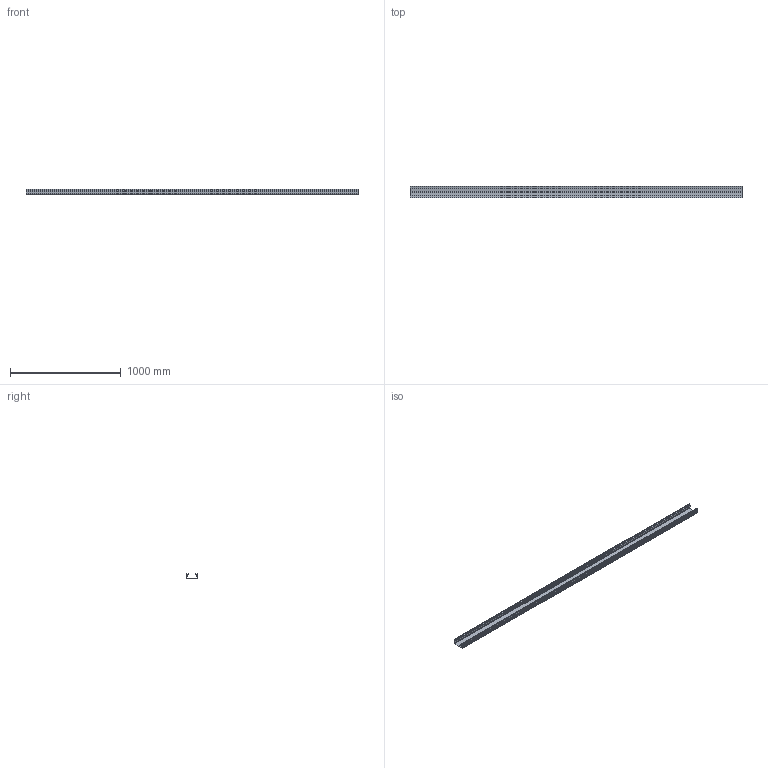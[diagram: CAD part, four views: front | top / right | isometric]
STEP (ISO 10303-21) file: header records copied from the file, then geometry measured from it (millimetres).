
FILE_DESCRIPTION (( 'STEP AP214' ), '1' );
FILE_NAME ('FSDT 3X107B.step', '2017-04-05T08:05:11', ( '' ), ( '' ), 'SwSTEP 2.0', 'SolidWorks 2015', '' );
FILE_SCHEMA (( 'AUTOMOTIVE_DESIGN' ));
Length unit declared in the file: millimetre
Products named in the file (1): FSDT 3X107B
Bounding box: 3000 x 107 x 54 mm (x, y, z)
Volume: 1998447.2 mm3; surface area: 1619857.7 mm2
Topology: 1 solids, 1 shells, 107 faces, 315 edges, 210 vertices
Faces by surface type: cylinder 55, plane 52
Entity records: 3633 total; most frequent: DIRECTION 641, CARTESIAN_POINT 633, ORIENTED_EDGE 630, EDGE_CURVE 315, AXIS2_PLACEMENT_3D 218, VERTEX_POINT 210, LINE 205, VECTOR 205
